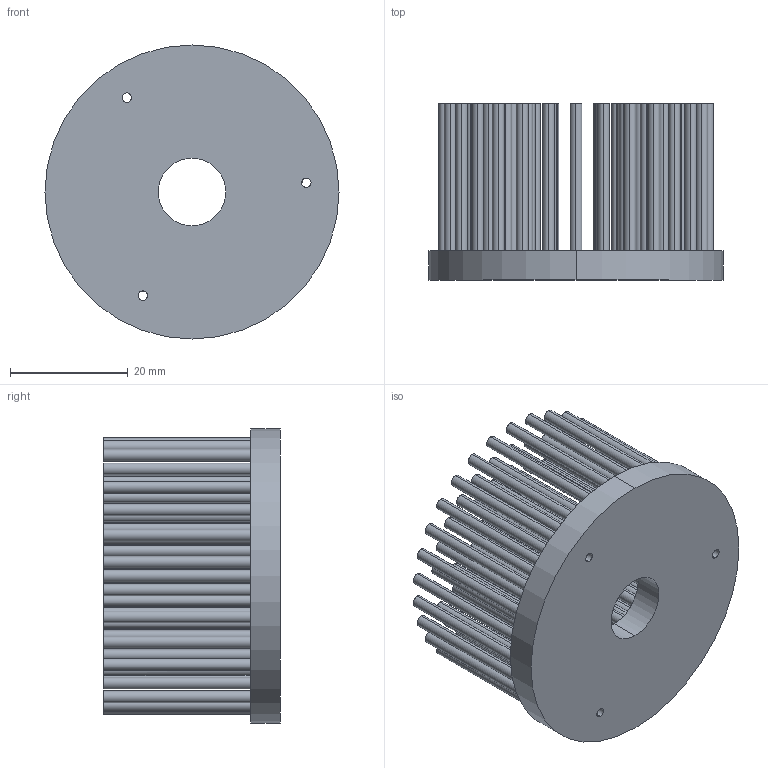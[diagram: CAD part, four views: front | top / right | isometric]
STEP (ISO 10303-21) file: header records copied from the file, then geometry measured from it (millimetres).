
FILE_DESCRIPTION (( 'STEP AP203' ), '1' );
FILE_NAME ('XSA-60-M2 (O50mm X 30mm).STEP', '2012-06-27T08:55:35', ( 'Your User Name' ), ( 'Your Company Name' ), 'SwSTEP 2.0', 'SolidWorks 2011', '' );
FILE_SCHEMA (( 'CONFIG_CONTROL_DESIGN' ));
Length unit declared in the file: millimetre
Products named in the file (1): XSA-60-M2 (O50mm X 30mm)
Bounding box: 50 x 30 x 50 mm (x, y, z)
Volume: 16336.4 mm3; surface area: 18886 mm2
Topology: 1 solids, 1 shells, 284 faces, 582 edges, 388 vertices
Faces by surface type: cylinder 190, plane 92, cone 2
Entity records: 7789 total; most frequent: DIRECTION 1534, CARTESIAN_POINT 1266, ORIENTED_EDGE 1164, AXIS2_PLACEMENT_3D 670, EDGE_CURVE 582, VERTEX_POINT 388, CIRCLE 385, EDGE_LOOP 380
